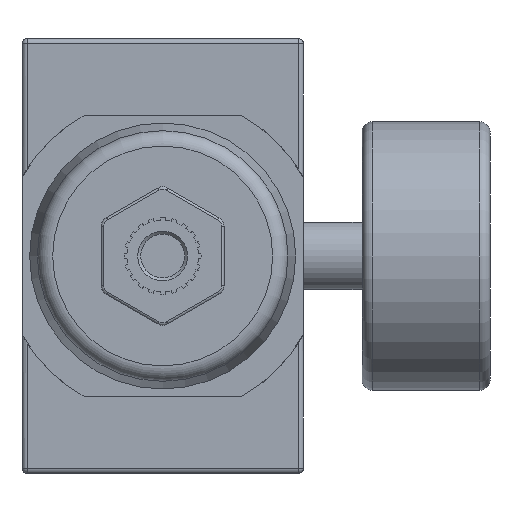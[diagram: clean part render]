
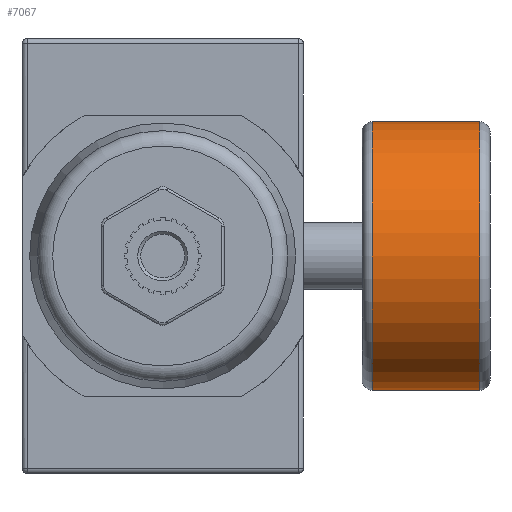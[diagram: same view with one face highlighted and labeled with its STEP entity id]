
A CAD part, front view. The second image highlights one B-rep face of the part: STEP entity #7067.
In plain terms, the highlighted cylindrical face has radius 26.25 mm (diameter 52.5 mm), a full revolution.
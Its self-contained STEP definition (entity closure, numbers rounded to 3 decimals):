
#720=LINE('',#12756,#1281);
#1281=VECTOR('',#10004,26.25);
#1441=CYLINDRICAL_SURFACE('',#7875,26.25);
#1830=FACE_OUTER_BOUND('',#2236,.T.);
#2236=EDGE_LOOP('',(#6469,#6470,#6471,#6472));
#2633=CIRCLE('',#7874,26.25);
#2634=CIRCLE('',#7876,26.25);
#3317=VERTEX_POINT('',#12751);
#3318=VERTEX_POINT('',#12755);
#4368=EDGE_CURVE('',#3317,#3317,#2633,.T.);
#4369=EDGE_CURVE('',#3317,#3318,#720,.T.);
#4370=EDGE_CURVE('',#3318,#3318,#2634,.T.);
#6469=ORIENTED_EDGE('',*,*,#4368,.F.);
#6470=ORIENTED_EDGE('',*,*,#4369,.T.);
#6471=ORIENTED_EDGE('',*,*,#4370,.T.);
#6472=ORIENTED_EDGE('',*,*,#4369,.F.);
#7067=ADVANCED_FACE('',(#1830),#1441,.T.);
#7874=AXIS2_PLACEMENT_3D('',#12753,#10000,#10001);
#7875=AXIS2_PLACEMENT_3D('',#12754,#10002,#10003);
#7876=AXIS2_PLACEMENT_3D('',#12757,#10005,#10006);
#10000=DIRECTION('center_axis',(1.,0.,0.));
#10001=DIRECTION('ref_axis',(0.,0.,-1.));
#10002=DIRECTION('center_axis',(1.,0.,0.));
#10003=DIRECTION('ref_axis',(0.,0.,-1.));
#10004=DIRECTION('',(-1.,0.,0.));
#10005=DIRECTION('center_axis',(1.,0.,0.));
#10006=DIRECTION('ref_axis',(0.,0.,-1.));
#12751=CARTESIAN_POINT('',(89.5,16.,-16.25));
#12753=CARTESIAN_POINT('Origin',(89.5,16.,-42.5));
#12754=CARTESIAN_POINT('Origin',(91.5,16.,-42.5));
#12755=CARTESIAN_POINT('',(68.5,16.,-16.25));
#12756=CARTESIAN_POINT('',(91.5,16.,-16.25));
#12757=CARTESIAN_POINT('Origin',(68.5,16.,-42.5));
